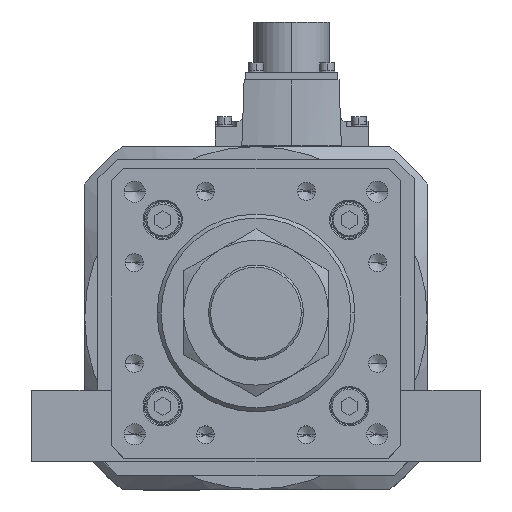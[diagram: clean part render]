
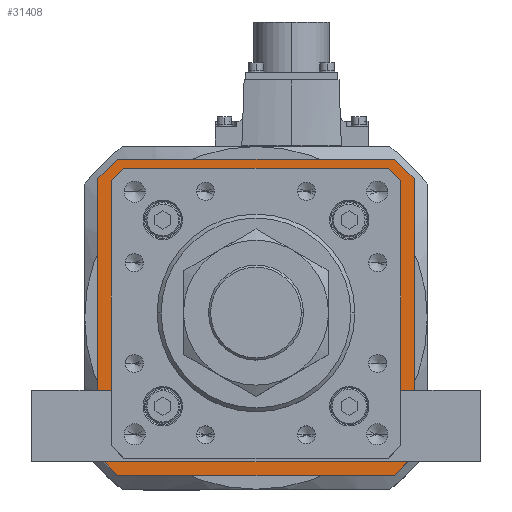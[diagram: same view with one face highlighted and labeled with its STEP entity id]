
A CAD part, top view. The second image highlights one B-rep face of the part: STEP entity #31408.
In plain terms, the highlighted planar face has unit normal (0, 0, 1).
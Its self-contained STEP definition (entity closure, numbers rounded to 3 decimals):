
#762 = ORIENTED_EDGE ( 'NONE', *, *, #21675, .F. ) ;
#890 = VERTEX_POINT ( 'NONE', #1501 ) ;
#946 = VERTEX_POINT ( 'NONE', #28463 ) ;
#966 = LINE ( 'NONE', #33860, #28228 ) ;
#1501 = CARTESIAN_POINT ( 'NONE',  ( 49.593, -53.5, -119. ) ) ;
#1817 = ORIENTED_EDGE ( 'NONE', *, *, #36467, .T. ) ;
#2380 = EDGE_CURVE ( 'NONE', #29742, #5682, #5322, .T. ) ;
#2780 = VECTOR ( 'NONE', #23050, 1000. ) ;
#3221 = DIRECTION ( 'NONE',  ( 1., 0., 0. ) ) ;
#3268 = CARTESIAN_POINT ( 'NONE',  ( -52.5, 60., -119. ) ) ;
#3448 = LINE ( 'NONE', #28771, #35357 ) ;
#3484 = VECTOR ( 'NONE', #22280, 1000. ) ;
#4000 = EDGE_CURVE ( 'NONE', #890, #28964, #15214, .T. ) ;
#4168 = VERTEX_POINT ( 'NONE', #22452 ) ;
#4240 = CARTESIAN_POINT ( 'NONE',  ( 52.5, 60., -119. ) ) ;
#4470 = ORIENTED_EDGE ( 'NONE', *, *, #21071, .T. ) ;
#5100 = CARTESIAN_POINT ( 'NONE',  ( -52.5, 60., -119. ) ) ;
#5322 = LINE ( 'NONE', #28747, #11838 ) ;
#5353 = DIRECTION ( 'NONE',  ( 0.707, -0.707, 0. ) ) ;
#5527 = CARTESIAN_POINT ( 'NONE',  ( 53.5, -49.593, -119. ) ) ;
#5682 = VERTEX_POINT ( 'NONE', #15964 ) ;
#5953 = PLANE ( 'NONE',  #35070 ) ;
#6770 = ORIENTED_EDGE ( 'NONE', *, *, #16524, .T. ) ;
#7079 = CARTESIAN_POINT ( 'NONE',  ( 60., 52.5, -119. ) ) ;
#7092 = CARTESIAN_POINT ( 'NONE',  ( -60., 52.5, -119. ) ) ;
#7106 = ORIENTED_EDGE ( 'NONE', *, *, #10596, .F. ) ;
#7280 = DIRECTION ( 'NONE',  ( -0.707, 0.707, 0. ) ) ;
#8357 = CARTESIAN_POINT ( 'NONE',  ( -60., 52.5, -119. ) ) ;
#8390 = ORIENTED_EDGE ( 'NONE', *, *, #14047, .T. ) ;
#9191 = CARTESIAN_POINT ( 'NONE',  ( 0., 0., -119. ) ) ;
#9393 = EDGE_CURVE ( 'NONE', #4168, #946, #14347, .T. ) ;
#9462 = EDGE_CURVE ( 'NONE', #31528, #14002, #20359, .T. ) ;
#9608 = LINE ( 'NONE', #7079, #38270 ) ;
#9610 = EDGE_CURVE ( 'NONE', #22367, #29742, #15708, .T. ) ;
#9699 = DIRECTION ( 'NONE',  ( -0.707, -0.707, 0. ) ) ;
#10154 = LINE ( 'NONE', #8357, #36526 ) ;
#10284 = DIRECTION ( 'NONE',  ( 0., -1., 0. ) ) ;
#10367 = CARTESIAN_POINT ( 'NONE',  ( -53.5, -49.593, -119. ) ) ;
#10596 = EDGE_CURVE ( 'NONE', #19077, #22367, #11155, .T. ) ;
#10688 = VERTEX_POINT ( 'NONE', #10367 ) ;
#11155 = LINE ( 'NONE', #3268, #19959 ) ;
#11838 = VECTOR ( 'NONE', #25782, 1000. ) ;
#12359 = DIRECTION ( 'NONE',  ( -1., 0., 0. ) ) ;
#13373 = VECTOR ( 'NONE', #5353, 1000. ) ;
#13485 = EDGE_CURVE ( 'NONE', #35635, #890, #30795, .T. ) ;
#13501 = VECTOR ( 'NONE', #27511, 1000. ) ;
#13548 = CARTESIAN_POINT ( 'NONE',  ( 52.5, -60., -119. ) ) ;
#14002 = VERTEX_POINT ( 'NONE', #13548 ) ;
#14047 = EDGE_CURVE ( 'NONE', #32222, #35635, #3448, .T. ) ;
#14347 = LINE ( 'NONE', #35393, #2780 ) ;
#14421 = VECTOR ( 'NONE', #7280, 1000. ) ;
#14949 = ORIENTED_EDGE ( 'NONE', *, *, #9393, .T. ) ;
#15094 = VERTEX_POINT ( 'NONE', #30720 ) ;
#15214 = LINE ( 'NONE', #33149, #17999 ) ;
#15708 = LINE ( 'NONE', #4240, #18094 ) ;
#15964 = CARTESIAN_POINT ( 'NONE',  ( 60., 52.5, -119. ) ) ;
#15970 = CARTESIAN_POINT ( 'NONE',  ( 53.5, 49.593, -119. ) ) ;
#16120 = VECTOR ( 'NONE', #27016, 1000. ) ;
#16277 = LINE ( 'NONE', #22166, #14421 ) ;
#16524 = EDGE_CURVE ( 'NONE', #946, #19549, #18137, .T. ) ;
#17030 = LINE ( 'NONE', #27135, #16120 ) ;
#17817 = CARTESIAN_POINT ( 'NONE',  ( -49.593, -53.5, -119. ) ) ;
#17999 = VECTOR ( 'NONE', #12359, 1000. ) ;
#18094 = VECTOR ( 'NONE', #19142, 1000. ) ;
#18137 = LINE ( 'NONE', #32673, #35701 ) ;
#18945 = LINE ( 'NONE', #37799, #13373 ) ;
#19077 = VERTEX_POINT ( 'NONE', #7092 ) ;
#19142 = DIRECTION ( 'NONE',  ( 1., 0., 0. ) ) ;
#19154 = ORIENTED_EDGE ( 'NONE', *, *, #33569, .F. ) ;
#19293 = CARTESIAN_POINT ( 'NONE',  ( 49.446, -53.646, -119. ) ) ;
#19549 = VERTEX_POINT ( 'NONE', #36867 ) ;
#19959 = VECTOR ( 'NONE', #33250, 1000. ) ;
#20359 = LINE ( 'NONE', #33470, #29123 ) ;
#21071 = EDGE_CURVE ( 'NONE', #28964, #10688, #16277, .T. ) ;
#21211 = CARTESIAN_POINT ( 'NONE',  ( -52.5, -60., -119. ) ) ;
#21675 = EDGE_CURVE ( 'NONE', #14002, #15094, #966, .T. ) ;
#21831 = LINE ( 'NONE', #21211, #13501 ) ;
#22036 = CARTESIAN_POINT ( 'NONE',  ( 52.5, 60., -119. ) ) ;
#22166 = CARTESIAN_POINT ( 'NONE',  ( -53.646, -49.446, -119. ) ) ;
#22280 = DIRECTION ( 'NONE',  ( -0.707, -0.707, 0. ) ) ;
#22352 = EDGE_CURVE ( 'NONE', #19549, #32222, #18945, .T. ) ;
#22367 = VERTEX_POINT ( 'NONE', #5100 ) ;
#22452 = CARTESIAN_POINT ( 'NONE',  ( -53.5, 49.593, -119. ) ) ;
#22887 = EDGE_LOOP ( 'NONE', ( #6770, #32444, #8390, #27342, #28170, #4470, #1817, #14949 ) ) ;
#22952 = FACE_OUTER_BOUND ( 'NONE', #36156, .T. ) ;
#23050 = DIRECTION ( 'NONE',  ( 0.707, 0.707, 0. ) ) ;
#23564 = ORIENTED_EDGE ( 'NONE', *, *, #34573, .F. ) ;
#23627 = CARTESIAN_POINT ( 'NONE',  ( -60., -52.5, -119. ) ) ;
#25782 = DIRECTION ( 'NONE',  ( 0.707, -0.707, 0. ) ) ;
#26199 = DIRECTION ( 'NONE',  ( 0., -1., 0. ) ) ;
#26911 = ORIENTED_EDGE ( 'NONE', *, *, #9610, .F. ) ;
#27016 = DIRECTION ( 'NONE',  ( 0., 1., 0. ) ) ;
#27135 = CARTESIAN_POINT ( 'NONE',  ( -53.5, 49.8, -119. ) ) ;
#27342 = ORIENTED_EDGE ( 'NONE', *, *, #13485, .T. ) ;
#27511 = DIRECTION ( 'NONE',  ( -0.707, 0.707, 0. ) ) ;
#28170 = ORIENTED_EDGE ( 'NONE', *, *, #4000, .T. ) ;
#28228 = VECTOR ( 'NONE', #31011, 1000. ) ;
#28463 = CARTESIAN_POINT ( 'NONE',  ( -49.593, 53.5, -119. ) ) ;
#28747 = CARTESIAN_POINT ( 'NONE',  ( 60., 52.5, -119. ) ) ;
#28771 = CARTESIAN_POINT ( 'NONE',  ( 53.5, -49.8, -119. ) ) ;
#28964 = VERTEX_POINT ( 'NONE', #17817 ) ;
#29123 = VECTOR ( 'NONE', #9699, 1000. ) ;
#29742 = VERTEX_POINT ( 'NONE', #22036 ) ;
#29845 = DIRECTION ( 'NONE',  ( 0., 0., 1. ) ) ;
#30098 = CARTESIAN_POINT ( 'NONE',  ( 60., -52.5, -119. ) ) ;
#30720 = CARTESIAN_POINT ( 'NONE',  ( -52.5, -60., -119. ) ) ;
#30795 = LINE ( 'NONE', #19293, #3484 ) ;
#31011 = DIRECTION ( 'NONE',  ( -1., 0., 0. ) ) ;
#31408 = ADVANCED_FACE ( 'NONE', ( #37704, #22952 ), #5953, .T. ) ;
#31528 = VERTEX_POINT ( 'NONE', #30098 ) ;
#32222 = VERTEX_POINT ( 'NONE', #15970 ) ;
#32431 = DIRECTION ( 'NONE',  ( 1., 0., 0. ) ) ;
#32444 = ORIENTED_EDGE ( 'NONE', *, *, #22352, .T. ) ;
#32673 = CARTESIAN_POINT ( 'NONE',  ( 49.8, 53.5, -119. ) ) ;
#33149 = CARTESIAN_POINT ( 'NONE',  ( -49.8, -53.5, -119. ) ) ;
#33250 = DIRECTION ( 'NONE',  ( 0.707, 0.707, 0. ) ) ;
#33470 = CARTESIAN_POINT ( 'NONE',  ( 60., -52.5, -119. ) ) ;
#33569 = EDGE_CURVE ( 'NONE', #15094, #35694, #21831, .T. ) ;
#33860 = CARTESIAN_POINT ( 'NONE',  ( 52.5, -60., -119. ) ) ;
#34340 = ORIENTED_EDGE ( 'NONE', *, *, #35947, .F. ) ;
#34573 = EDGE_CURVE ( 'NONE', #35694, #19077, #10154, .T. ) ;
#35070 = AXIS2_PLACEMENT_3D ( 'NONE', #9191, #29845, #3221 ) ;
#35357 = VECTOR ( 'NONE', #26199, 1000. ) ;
#35393 = CARTESIAN_POINT ( 'NONE',  ( -49.446, 53.646, -119. ) ) ;
#35635 = VERTEX_POINT ( 'NONE', #5527 ) ;
#35694 = VERTEX_POINT ( 'NONE', #23627 ) ;
#35701 = VECTOR ( 'NONE', #32431, 1000. ) ;
#35947 = EDGE_CURVE ( 'NONE', #5682, #31528, #9608, .T. ) ;
#36156 = EDGE_LOOP ( 'NONE', ( #26911, #7106, #23564, #19154, #762, #36228, #34340, #36351 ) ) ;
#36228 = ORIENTED_EDGE ( 'NONE', *, *, #9462, .F. ) ;
#36351 = ORIENTED_EDGE ( 'NONE', *, *, #2380, .F. ) ;
#36467 = EDGE_CURVE ( 'NONE', #10688, #4168, #17030, .T. ) ;
#36526 = VECTOR ( 'NONE', #37658, 1000. ) ;
#36867 = CARTESIAN_POINT ( 'NONE',  ( 49.593, 53.5, -119. ) ) ;
#37658 = DIRECTION ( 'NONE',  ( 0., 1., 0. ) ) ;
#37704 = FACE_BOUND ( 'NONE', #22887, .T. ) ;
#37799 = CARTESIAN_POINT ( 'NONE',  ( 53.646, 49.446, -119. ) ) ;
#38270 = VECTOR ( 'NONE', #10284, 1000. ) ;
